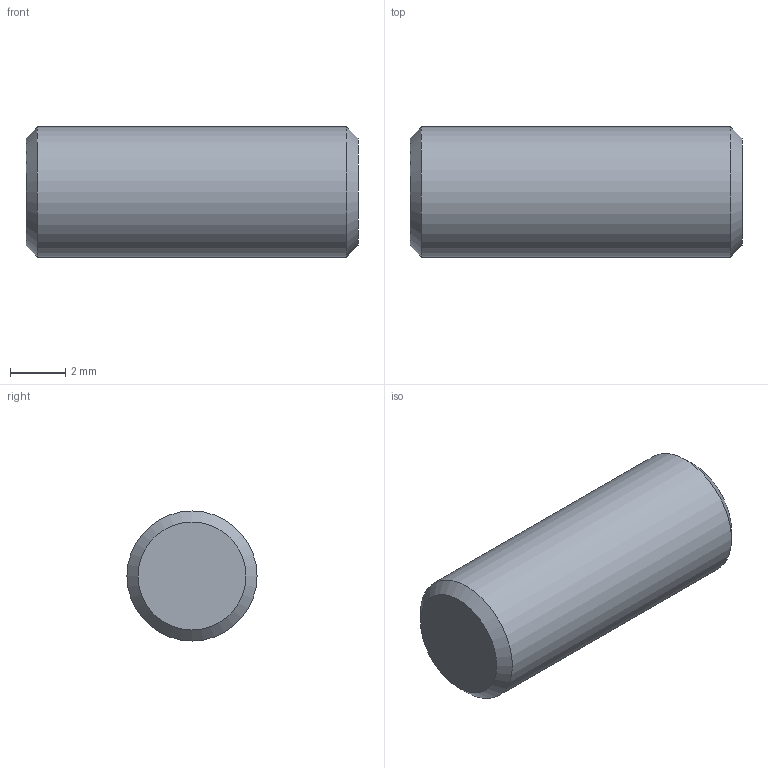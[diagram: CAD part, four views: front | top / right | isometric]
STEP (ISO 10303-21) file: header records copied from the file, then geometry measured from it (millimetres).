
FILE_DESCRIPTION(('HOOPS Exchange Step'),'2;1');
FILE_NAME('/private/var/mobile/Containers/Data/Application/7757FF33-1D33-4737-A453-9CE358D91B4E/tmp/export/temp_export','2026-04-22T20:38:04+19:00',('mobile'),('Shapr3D Limited'),'HOOPS Exchange 2025.9','Shapr3D','Authorized');
FILE_SCHEMA( ('AP242_MANAGED_MODEL_BASED_3D_ENGINEERING_MIM_LF {1 0 10303 442 1 1 4}') );
Length unit declared in the file: millimetre
Products named in the file (2): Front dowel.step; root
Assembly tree (1 placements, depth 2):
  root
    Front dowel.step
Bounding box: 12 x 4.7 x 4.7 mm (x, y, z)
Volume: 206 mm3; surface area: 204.5 mm2
Topology: 1 solids, 1 shells, 5 faces, 8 edges, 5 vertices
Faces by surface type: plane 2, cone 2, cylinder 1
Full cylindrical faces by diameter (mm): 4.7 x1
Entity records: 180 total; most frequent: DIRECTION 31, CARTESIAN_POINT 22, ORIENTED_EDGE 16, AXIS2_PLACEMENT_3D 14, EDGE_CURVE 8, VERTEX_POINT 5, CIRCLE 5, EDGE_LOOP 5
